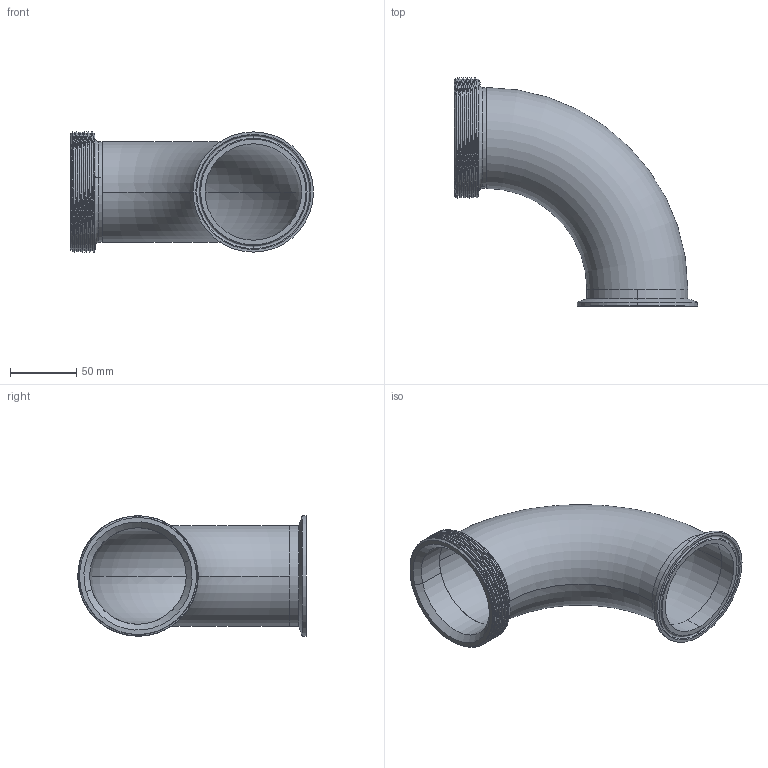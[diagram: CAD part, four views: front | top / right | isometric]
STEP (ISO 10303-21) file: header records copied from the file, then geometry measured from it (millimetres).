
FILE_DESCRIPTION (( 'STEP AP203' ), '1' );
FILE_NAME ('EG2FTR3.0.STEP', '2018-05-07T13:42:34', ( 'vneprd' ), ( 'Microsoft' ), 'SwSTEP 2.0', 'SolidWorks 2014', '' );
FILE_SCHEMA (( 'CONFIG_CONTROL_DESIGN' ));
Length unit declared in the file: inch
Products named in the file (4): EG2CS3.0; EG2FTR3.0; 2WCL3.0; 15TR3.0
Assembly tree (3 placements, depth 2):
  EG2FTR3.0
    2WCL3.0
    15TR3.0
    EG2CS3.0
Bounding box: 183.55 x 172.39 x 90.91 mm (x, y, z)
Volume: 120963.4 mm3; surface area: 113296.2 mm2
Topology: 3 solids, 3 shells, 56 faces, 132 edges, 84 vertices
Faces by surface type: cylinder 24, torus 12, plane 10, bspline 6, cone 4
Entity records: 4922 total; most frequent: CARTESIAN_POINT 3285, ORIENTED_EDGE 264, DIRECTION 257, EDGE_CURVE 132, AXIS2_PLACEMENT_3D 111, VERTEX_POINT 84, EDGE_LOOP 64, ADVANCED_FACE 56
